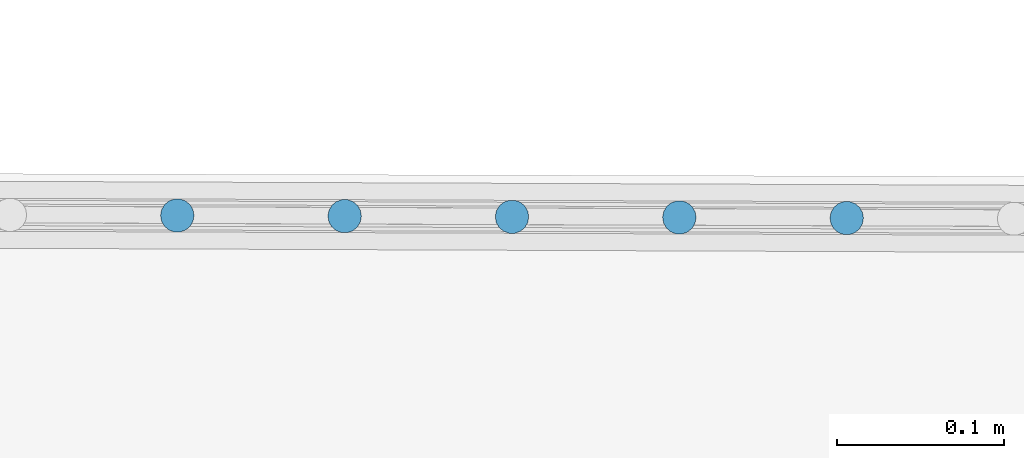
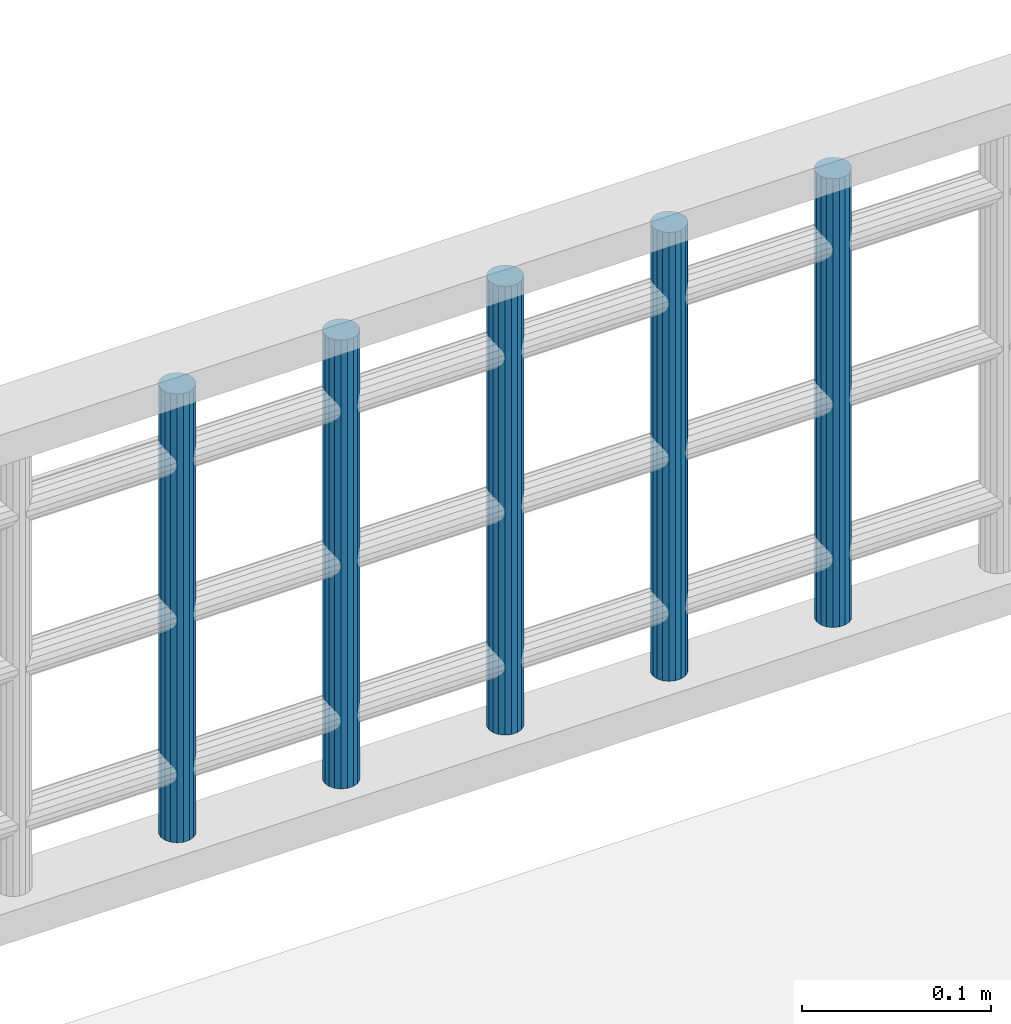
# One storey, part 16 of 39: 5 members, 1 element without a shape of its own.
"""IFC2X3 building model written with IfcOpenShell, lengths in centimetres."""

from ifc_helpers import new_model, entity, si_unit, converted_unit, direction, frame, origin, origin_with_axes, place, context, subcontext, project, spatial, faceted_brep, material, type_object, element, aggregate, save


model = new_model("IFC2X3")

# Units and contexts
model_context = context("Model", 3, precision=0.0001, world=origin(), true_north=direction((0.225632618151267, 0.974212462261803, 0.0)))
body_context = subcontext(model_context, "Body", "Model", "MODEL_VIEW")
ifc_project = project(units=[si_unit("LENGTHUNIT", "METRE", prefix="CENTI"), si_unit("AREAUNIT", "SQUARE_METRE", prefix="CENTI"), si_unit("VOLUMEUNIT", "CUBIC_METRE", prefix="CENTI"), converted_unit("PLANEANGLEUNIT", "DEGREE", entity("IfcRatioMeasure", 0.0174532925), si_unit("PLANEANGLEUNIT", "RADIAN"), dimensions=[0, 0, 0, 0, 0, 0, 0])], contexts=[model_context])

# Site, building, storey
site_placement = place(None, origin_with_axes())
site = spatial("IfcSite", under=ifc_project, at=site_placement, Name="Default Site", CompositionType="ELEMENT")
building_placement = place(site_placement, origin_with_axes())
building = spatial("IfcBuilding", under=site, at=building_placement, Name="Default Building", CompositionType="ELEMENT")
storey_placement = place(building_placement, frame((0.0, 0.0, 1088.91037418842), z_axis=(0.0, 0.0, 1.0), x_axis=(1.0, 0.0, 0.0)))
storey = spatial("IfcBuildingStorey", under=building, at=storey_placement, Name="Mezzanine", CompositionType="ELEMENT", Elevation=1088.91037418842)

# Assembly, members
building_element_proxy_type = type_object("IfcBuildingElementProxyType", Name="Type Object", PredefinedType="NOTDEFINED")
assembly_placement = place(storey_placement, frame((1162.63, -350.05, -63.0000000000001), z_axis=(0.0, 0.0, 1.0), x_axis=(0.999992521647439, -0.00386738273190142, 0.0)))
assembly = element("IfcElementAssembly", 1, at=assembly_placement, inside=storey, type_object=building_element_proxy_type, Name="Panneau 1519648", ObjectType="Precast panel", PredefinedType="USERDEFINED")
ifc_material = material(Name="Blanc trafic")
member_1_placement = place(assembly_placement, frame((64.9396955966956, 0.342020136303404, 31.0000002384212), z_axis=(0.0, 0.0, 0.999999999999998), x_axis=(0.500008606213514, -0.866020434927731, 0.0)))
member_1 = element("IfcMember", 2, at=member_1_placement, material=ifc_material, Name="4294967218", context=body_context, shape_type="Brep", body=[
    faceted_brep([(-2.58681964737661e-12, -2.53130849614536e-12, -2.75890421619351e-12), (-0.347298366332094, -2.50910403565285e-12, -2.75890421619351e-12), (-0.673651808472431, -0.118779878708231, -2.75890421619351e-12), (-0.939696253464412, -0.342011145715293, -2.75890421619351e-12), (-1.11334843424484, -0.64277864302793, -2.75890421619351e-12), (-1.17365993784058, -0.984799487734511, -2.75890421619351e-12), (-1.11335640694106, -1.32682099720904, -2.75890421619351e-12), (-0.939710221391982, -1.6275884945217, -2.75890421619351e-12), (-0.673668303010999, -1.85082944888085, -2.75890421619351e-12), (-0.347317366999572, -1.96961451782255, -2.75890421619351e-12), (-2.19809536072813e-05, -1.96961967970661, -2.75890421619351e-12), (0.32633146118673, -1.85083980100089, -2.75890421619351e-12), (0.592378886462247, -1.62760337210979, -2.75890421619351e-12), (0.766031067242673, -1.32683587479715, -2.75890421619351e-12), (0.826339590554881, -0.984820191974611, -2.75890421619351e-12), (0.766036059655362, -0.642798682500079, -2.75890421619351e-12), (0.592392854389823, -0.342026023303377, -2.75890421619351e-12), (0.326347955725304, -0.11879023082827, -2.75890421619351e-12), (0.326347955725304, -0.11879023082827, -29.0000002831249), (0.592392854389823, -0.342026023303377, -29.0000002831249), (0.766036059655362, -0.642798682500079, -29.0000002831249), (0.826339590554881, -0.984820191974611, -29.0000002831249), (0.766031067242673, -1.32683587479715, -29.0000002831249), (0.592378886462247, -1.62760337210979, -29.0000002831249), (0.32633146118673, -1.85083980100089, -29.0000002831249), (-2.19809536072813e-05, -1.96961967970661, -29.0000002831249), (-0.347317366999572, -1.96961451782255, -29.0000002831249), (-0.673668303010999, -1.85082944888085, -29.0000002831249), (-0.939710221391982, -1.6275884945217, -29.0000002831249), (-1.11335640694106, -1.32682099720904, -29.0000002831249), (-1.17365993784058, -0.984799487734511, -29.0000002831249), (-1.11334843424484, -0.64277864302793, -29.0000002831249), (-0.939696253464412, -0.342011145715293, -29.0000002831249), (-0.673651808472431, -0.118779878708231, -29.0000002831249), (-0.347298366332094, -2.50910403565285e-12, -29.0000002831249), (-2.58681964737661e-12, -2.53130849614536e-12, -29.0000002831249), (0.592389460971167, -0.342030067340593, -2.75890421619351e-12), (0.592389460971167, -0.342030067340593, -29.0000002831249), (0.766039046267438, -0.642796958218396, -2.75890421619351e-12), (0.766039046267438, -0.642796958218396, -29.0000002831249), (0.826340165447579, -0.984820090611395, -2.75890421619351e-12), (0.826340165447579, -0.984820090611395, -29.0000002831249), (0.766029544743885, -1.32683560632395, -2.75890421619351e-12), (0.766029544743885, -1.32683560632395, -29.0000002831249), (0.592378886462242, -1.62760337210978, -2.75890421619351e-12), (0.592378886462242, -1.62760337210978, -29.0000002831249), (0.326331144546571, -1.85083942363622, -2.75890421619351e-12), (0.326331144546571, -1.85083942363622, -29.0000002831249), (-2.21806059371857e-05, -1.96961913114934, -2.75890421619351e-12), (-2.21806059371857e-05, -1.96961913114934, -29.0000002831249), (-0.347317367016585, -1.96961623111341, -2.75890421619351e-12), (-0.347317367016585, -1.96961623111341, -29.0000002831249), (-0.67366810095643, -1.85082889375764, -2.75890421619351e-12), (-0.67366810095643, -1.85082889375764, -29.0000002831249), (-0.939710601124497, -1.62758894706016, -2.75890421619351e-12), (-0.939710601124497, -1.62758894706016, -29.0000002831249), (-1.11335492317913, -1.32682014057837, -2.75890421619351e-12), (-1.11335492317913, -1.32682014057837, -29.0000002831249), (-1.17366051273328, -0.984799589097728, -2.75890421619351e-12), (-1.17366051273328, -0.984799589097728, -29.0000002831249), (-1.11334891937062, -0.642778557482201, -2.75890421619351e-12), (-1.11334891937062, -0.642778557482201, -29.0000002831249), (-0.939696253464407, -0.342011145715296, -2.75890421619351e-12), (-0.939696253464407, -0.342011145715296, -29.0000002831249), (-0.673652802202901, -0.118778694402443, -2.75890421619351e-12), (-0.673652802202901, -0.118778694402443, -29.0000002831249), (-0.347298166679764, -5.48559777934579e-07, -2.75890421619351e-12), (-0.347298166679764, -5.48559777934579e-07, -29.0000002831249), (-3.68311474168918e-11, -3.4486253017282e-06, -2.75890421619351e-12), (-3.68311474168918e-11, -3.4486253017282e-06, -29.0000002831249), (0.326349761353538, -0.118785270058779, -2.75890421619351e-12), (0.326349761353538, -0.118785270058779, -29.0000002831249)], [[[0, 1, 2, 3, 4, 5, 6, 7, 8, 9, 10, 11, 12, 13, 14, 15, 16, 17]], [[18, 19, 20, 21, 22, 23, 24, 25, 26, 27, 28, 29, 30, 31, 32, 33, 34, 35]], [[17, 36, 37, 18]], [[16, 38, 39, 19]], [[15, 40, 41, 20]], [[14, 42, 43, 21]], [[13, 44, 45, 22]], [[12, 46, 47, 23]], [[11, 48, 49, 24]], [[10, 50, 51, 25]], [[9, 52, 53, 26]], [[8, 54, 55, 27]], [[7, 56, 57, 28]], [[6, 58, 59, 29]], [[5, 60, 61, 30]], [[4, 62, 63, 31]], [[3, 64, 65, 32]], [[2, 66, 67, 33]], [[1, 68, 69, 34]], [[0, 70, 71, 35]]]),
])
member_2_placement = place(assembly_placement, frame((74.9396920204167, 0.342020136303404, 31.0000002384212), z_axis=(0.0, 0.0, 0.999999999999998), x_axis=(0.499995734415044, -0.866027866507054, 0.0)))
member_2 = element("IfcMember", 3, at=member_2_placement, material=ifc_material, Name="4294967217", context=body_context, shape_type="Brep", body=[
    faceted_brep([(-2.54796184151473e-12, -2.54241072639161e-12, -2.57016630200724e-12), (-0.347295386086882, -2.48689957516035e-12, -2.57016630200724e-12), (-0.673647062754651, -0.118784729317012, -2.57016630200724e-12), (-0.939691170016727, -0.342025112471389, -2.57016630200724e-12), (-1.11333590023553, -0.642790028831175, -2.57016630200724e-12), (-1.17364232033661, -0.984811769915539, -2.57016630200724e-12), (-1.11333370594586, -1.32683238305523, -2.57016630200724e-12), (-0.939683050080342, -1.62759729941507, -2.57016630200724e-12), (-0.673637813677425, -1.85083429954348, -2.57016630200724e-12), (-0.347285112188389, -1.96961451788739, -2.57016630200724e-12), (1.0273895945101e-05, -1.96961451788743, -2.57016630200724e-12), (0.326361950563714, -1.85082978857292, -2.57016630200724e-12), (0.592406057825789, -1.62758940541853, -2.57016630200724e-12), (0.766050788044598, -1.32682448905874, -2.57016630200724e-12), (0.826357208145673, -0.984802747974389, -2.57016630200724e-12), (0.766048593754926, -0.642782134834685, -2.57016630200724e-12), (0.592397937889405, -0.342017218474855, -2.57016630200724e-12), (0.326352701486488, -0.118780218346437, -2.57016630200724e-12), (0.326352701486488, -0.118780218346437, -29.0000002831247), (0.592397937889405, -0.342017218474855, -29.0000002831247), (0.766048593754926, -0.642782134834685, -29.0000002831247), (0.826357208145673, -0.984802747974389, -29.0000002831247), (0.766050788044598, -1.32682448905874, -29.0000002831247), (0.592406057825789, -1.62758940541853, -29.0000002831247), (0.326361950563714, -1.85082978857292, -29.0000002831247), (1.0273895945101e-05, -1.96961451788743, -29.0000002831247), (-0.347285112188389, -1.96961451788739, -29.0000002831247), (-0.673637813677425, -1.85083429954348, -29.0000002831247), (-0.939683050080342, -1.62759729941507, -29.0000002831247), (-1.11333370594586, -1.32683238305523, -29.0000002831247), (-1.17364232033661, -0.984811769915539, -29.0000002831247), (-1.11333590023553, -0.642790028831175, -29.0000002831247), (-0.939691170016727, -0.342025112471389, -29.0000002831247), (-0.673647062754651, -0.118784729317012, -29.0000002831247), (-0.347295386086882, -2.48689957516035e-12, -29.0000002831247), (-2.54796184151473e-12, -2.54241072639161e-12, -29.0000002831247), (0.592398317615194, -0.342016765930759, -2.57016630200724e-12), (0.592398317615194, -0.342016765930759, -29.0000002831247), (0.766047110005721, -0.642782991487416, -2.57016630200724e-12), (0.766047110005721, -0.642782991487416, -29.0000002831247), (0.826357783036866, -0.984802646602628, -2.57016630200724e-12), (0.826357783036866, -0.984802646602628, -29.0000002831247), (0.766051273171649, -1.32682457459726, -2.57016630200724e-12), (0.766051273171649, -1.32682457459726, -29.0000002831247), (0.592406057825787, -1.62758940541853, -2.57016630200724e-12), (0.592406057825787, -1.62758940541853, -29.0000002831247), (0.326361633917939, -1.85082941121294, -2.57016630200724e-12), (0.326361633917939, -1.85082941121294, -29.0000002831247), (1.00742354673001e-05, -1.96961396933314, -2.57016630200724e-12), (1.00742354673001e-05, -1.96961396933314, -29.0000002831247), (-0.347285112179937, -1.96961623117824, -2.57016630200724e-12), (-0.347285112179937, -1.96961623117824, -29.0000002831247), (-0.673637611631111, -1.85083374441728, -2.57016630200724e-12), (-0.673637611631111, -1.85083374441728, -29.0000002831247), (-0.939683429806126, -1.62759775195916, -2.57016630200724e-12), (-0.939683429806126, -1.62759775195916, -29.0000002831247), (-1.11333222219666, -1.3268315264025, -2.57016630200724e-12), (-1.11333222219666, -1.3268315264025, -29.0000002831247), (-1.1736428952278, -0.9848118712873, -2.57016630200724e-12), (-1.1736428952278, -0.9848118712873, -29.0000002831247), (-1.11333638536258, -0.642789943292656, -2.57016630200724e-12), (-1.11333638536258, -0.642789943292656, -29.0000002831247), (-0.939691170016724, -0.342025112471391, -2.57016630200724e-12), (-0.939691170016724, -0.342025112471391, -29.0000002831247), (-0.673646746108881, -0.11878510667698, -2.57016630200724e-12), (-0.673646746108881, -0.11878510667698, -29.0000002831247), (-0.347295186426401, -5.48556783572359e-07, -2.57016630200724e-12), (-0.347295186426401, -5.48556783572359e-07, -29.0000002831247), (-1.10000335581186e-11, 1.71328832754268e-06, -2.57016630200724e-12), (-1.10000335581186e-11, 1.71328832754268e-06, -29.0000002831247), (0.32635249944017, -0.118780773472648, -2.57016630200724e-12), (0.32635249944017, -0.118780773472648, -29.0000002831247)], [[[0, 1, 2, 3, 4, 5, 6, 7, 8, 9, 10, 11, 12, 13, 14, 15, 16, 17]], [[18, 19, 20, 21, 22, 23, 24, 25, 26, 27, 28, 29, 30, 31, 32, 33, 34, 35]], [[17, 36, 37, 18]], [[16, 38, 39, 19]], [[15, 40, 41, 20]], [[14, 42, 43, 21]], [[13, 44, 45, 22]], [[12, 46, 47, 23]], [[11, 48, 49, 24]], [[10, 50, 51, 25]], [[9, 52, 53, 26]], [[8, 54, 55, 27]], [[7, 56, 57, 28]], [[6, 58, 59, 29]], [[5, 60, 61, 30]], [[4, 62, 63, 31]], [[3, 64, 65, 32]], [[2, 66, 67, 33]], [[1, 68, 69, 34]], [[0, 70, 71, 35]]]),
])
member_3_placement = place(assembly_placement, frame((84.9396944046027, 0.342020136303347, 31.0000002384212), z_axis=(0.0, 0.0, 0.999999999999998), x_axis=(0.500008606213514, -0.866020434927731, 0.0)))
member_3 = element("IfcMember", 4, at=member_3_placement, material=ifc_material, Name="4294967216", context=body_context, shape_type="Brep", body=[
    faceted_brep([(-2.44804176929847e-12, -2.43138842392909e-12, -2.75890421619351e-12), (-0.347298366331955, -2.39808173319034e-12, -2.75890421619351e-12), (-0.673648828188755, -0.118774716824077, -2.75890421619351e-12), (-0.939696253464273, -0.342011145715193, -2.75890421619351e-12), (-1.1133484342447, -0.642778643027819, -2.75890421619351e-12), (-1.17365993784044, -0.984799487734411, -2.75890421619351e-12), (-1.11335342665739, -1.3268158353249, -2.75890421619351e-12), (-0.939710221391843, -1.62758849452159, -2.75890421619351e-12), (-0.67366830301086, -1.85082944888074, -2.75890421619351e-12), (-0.347317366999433, -1.96961451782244, -2.75890421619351e-12), (-1.9000669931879e-05, -1.96961451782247, -2.75890421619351e-12), (0.326331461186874, -1.85083980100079, -2.75890421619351e-12), (0.592378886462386, -1.62760337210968, -2.75890421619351e-12), (0.766031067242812, -1.32683587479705, -2.75890421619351e-12), (0.826342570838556, -0.984815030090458, -2.75890421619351e-12), (0.7660360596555, -0.642798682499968, -2.75890421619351e-12), (0.592392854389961, -0.342026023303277, -2.75890421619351e-12), (0.326350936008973, -0.118785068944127, -2.75890421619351e-12), (0.326350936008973, -0.118785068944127, -29.0000002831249), (0.592392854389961, -0.342026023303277, -29.0000002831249), (0.7660360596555, -0.642798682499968, -29.0000002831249), (0.826342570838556, -0.984815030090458, -29.0000002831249), (0.766031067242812, -1.32683587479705, -29.0000002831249), (0.592378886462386, -1.62760337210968, -29.0000002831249), (0.326331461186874, -1.85083980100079, -29.0000002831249), (-1.9000669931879e-05, -1.96961451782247, -29.0000002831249), (-0.347317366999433, -1.96961451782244, -29.0000002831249), (-0.67366830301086, -1.85082944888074, -29.0000002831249), (-0.939710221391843, -1.62758849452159, -29.0000002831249), (-1.11335342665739, -1.3268158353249, -29.0000002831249), (-1.17365993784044, -0.984799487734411, -29.0000002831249), (-1.1133484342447, -0.642778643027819, -29.0000002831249), (-0.939696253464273, -0.342011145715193, -29.0000002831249), (-0.673648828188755, -0.118774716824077, -29.0000002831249), (-0.347298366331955, -2.39808173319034e-12, -29.0000002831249), (-2.44804176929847e-12, -2.43138842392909e-12, -29.0000002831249), (0.592393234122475, -0.342025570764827, -2.75890421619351e-12), (0.592393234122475, -0.342025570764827, -29.0000002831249), (0.766039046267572, -0.642796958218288, -2.75890421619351e-12), (0.766039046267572, -0.642796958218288, -29.0000002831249), (0.826339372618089, -0.984815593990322, -2.75890421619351e-12), (0.826339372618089, -0.984815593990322, -29.0000002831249), (0.766031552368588, -1.32683596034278, -2.75890421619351e-12), (0.766031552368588, -1.32683596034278, -29.0000002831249), (0.326331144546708, -1.85083942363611, -2.75890421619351e-12), (0.326331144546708, -1.85083942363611, -29.0000002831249), (-1.78899719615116e-05, -1.96961756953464, -2.75890421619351e-12), (-1.78899719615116e-05, -1.96961756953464, -29.0000002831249), (-0.347317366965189, -1.96961106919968, -2.75890421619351e-12), (-0.347317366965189, -1.96961106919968, -29.0000002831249), (-0.673668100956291, -1.85082889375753, -2.75890421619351e-12), (-0.673668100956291, -1.85082889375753, -29.0000002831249), (-0.939710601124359, -1.62758894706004, -2.75890421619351e-12), (-0.939710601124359, -1.62758894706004, -29.0000002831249), (-1.11335641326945, -1.32681755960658, -2.75890421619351e-12), (-1.11335641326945, -1.32681755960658, -29.0000002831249), (-1.17365673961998, -0.984798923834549, -2.75890421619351e-12), (-1.17365673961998, -0.984798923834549, -29.0000002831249), (-1.11334891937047, -0.642778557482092, -2.75890421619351e-12), (-1.11334891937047, -0.642778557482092, -29.0000002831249), (-0.673648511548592, -0.118775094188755, -2.75890421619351e-12), (-0.673648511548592, -0.118775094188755, -29.0000002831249), (-0.347299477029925, 3.05170977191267e-06, -2.75890421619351e-12), (-0.347299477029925, 3.05170977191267e-06, -29.0000002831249), (-3.66923694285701e-11, -3.4486251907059e-06, -2.75890421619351e-12), (-3.66923694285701e-11, -3.4486251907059e-06, -29.0000002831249), (0.326350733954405, -0.118785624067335, -2.75890421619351e-12), (0.326350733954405, -0.118785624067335, -29.0000002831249)], [[[0, 1, 2, 3, 4, 5, 6, 7, 8, 9, 10, 11, 12, 13, 14, 15, 16, 17]], [[18, 19, 20, 21, 22, 23, 24, 25, 26, 27, 28, 29, 30, 31, 32, 33, 34, 35]], [[17, 36, 37, 18]], [[16, 38, 39, 19]], [[15, 40, 41, 20]], [[14, 42, 43, 21]], [[13, 12, 23, 22]], [[12, 44, 45, 23]], [[11, 46, 47, 24]], [[10, 48, 49, 25]], [[9, 50, 51, 26]], [[8, 52, 53, 27]], [[7, 54, 55, 28]], [[6, 56, 57, 29]], [[5, 58, 59, 30]], [[4, 3, 32, 31]], [[3, 60, 61, 32]], [[2, 62, 63, 33]], [[1, 64, 65, 34]], [[0, 66, 67, 35]]]),
])
member_4_placement = place(assembly_placement, frame((94.939690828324, 0.342020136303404, 31.0000002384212), z_axis=(0.0, 0.0, 0.999999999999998), x_axis=(0.499995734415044, -0.866027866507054, 0.0)))
member_4 = element("IfcMember", 5, at=member_4_placement, material=ifc_material, Name="4294967215", context=body_context, shape_type="Brep", body=[
    faceted_brep([(-2.49245069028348e-12, -2.64233079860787e-12, -2.57016630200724e-12), (-0.347295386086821, -2.58681964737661e-12, -2.57016630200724e-12), (-0.673647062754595, -0.118784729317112, -2.57016630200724e-12), (-0.939691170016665, -0.3420251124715, -2.57016630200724e-12), (-1.11333590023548, -0.642790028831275, -2.57016630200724e-12), (-1.17364232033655, -0.984811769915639, -2.57016630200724e-12), (-1.1133337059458, -1.32683238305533, -2.57016630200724e-12), (-0.939683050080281, -1.62759729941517, -2.57016630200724e-12), (-0.673637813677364, -1.85083429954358, -2.57016630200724e-12), (-0.347285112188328, -1.96961451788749, -2.57016630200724e-12), (1.02738960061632e-05, -1.96961451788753, -2.57016630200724e-12), (0.326361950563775, -1.85082978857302, -2.57016630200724e-12), (0.592406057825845, -1.62758940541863, -2.57016630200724e-12), (0.766050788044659, -1.32682448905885, -2.57016630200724e-12), (0.826357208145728, -0.984802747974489, -2.57016630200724e-12), (0.766048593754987, -0.642782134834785, -2.57016630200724e-12), (0.592397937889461, -0.342017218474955, -2.57016630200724e-12), (0.326352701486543, -0.118780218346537, -2.57016630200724e-12), (0.326352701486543, -0.118780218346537, -29.0000002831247), (0.592397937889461, -0.342017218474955, -29.0000002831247), (0.766048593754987, -0.642782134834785, -29.0000002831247), (0.826357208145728, -0.984802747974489, -29.0000002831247), (0.766050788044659, -1.32682448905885, -29.0000002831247), (0.592406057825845, -1.62758940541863, -29.0000002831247), (0.326361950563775, -1.85082978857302, -29.0000002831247), (1.02738960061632e-05, -1.96961451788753, -29.0000002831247), (-0.347285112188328, -1.96961451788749, -29.0000002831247), (-0.673637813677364, -1.85083429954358, -29.0000002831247), (-0.939683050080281, -1.62759729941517, -29.0000002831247), (-1.1133337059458, -1.32683238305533, -29.0000002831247), (-1.17364232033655, -0.984811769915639, -29.0000002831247), (-1.11333590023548, -0.642790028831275, -29.0000002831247), (-0.939691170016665, -0.3420251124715, -29.0000002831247), (-0.673647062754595, -0.118784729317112, -29.0000002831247), (-0.347295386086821, -2.58681964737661e-12, -29.0000002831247), (-2.49245069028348e-12, -2.64233079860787e-12, -29.0000002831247), (0.59239831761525, -0.342016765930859, -2.57016630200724e-12), (0.59239831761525, -0.342016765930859, -29.0000002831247), (0.766047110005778, -0.642782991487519, -2.57016630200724e-12), (0.766047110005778, -0.642782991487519, -29.0000002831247), (0.826357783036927, -0.984802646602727, -2.57016630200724e-12), (0.826357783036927, -0.984802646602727, -29.0000002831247), (0.766051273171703, -1.32682457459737, -2.57016630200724e-12), (0.766051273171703, -1.32682457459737, -29.0000002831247), (0.592406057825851, -1.62758940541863, -2.57016630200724e-12), (0.592406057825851, -1.62758940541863, -29.0000002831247), (0.326361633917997, -1.85082941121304, -2.57016630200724e-12), (0.326361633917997, -1.85082941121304, -29.0000002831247), (1.00742355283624e-05, -1.96961396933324, -2.57016630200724e-12), (1.00742355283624e-05, -1.96961396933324, -29.0000002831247), (-0.347285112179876, -1.96961623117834, -2.57016630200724e-12), (-0.347285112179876, -1.96961623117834, -29.0000002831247), (-0.67363761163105, -1.85083374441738, -2.57016630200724e-12), (-0.67363761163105, -1.85083374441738, -29.0000002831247), (-0.939683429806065, -1.62759775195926, -2.57016630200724e-12), (-0.939683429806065, -1.62759775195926, -29.0000002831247), (-1.1133322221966, -1.3268315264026, -2.57016630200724e-12), (-1.1133322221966, -1.3268315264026, -29.0000002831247), (-1.17364289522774, -0.9848118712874, -2.57016630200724e-12), (-1.17364289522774, -0.9848118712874, -29.0000002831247), (-1.11333638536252, -0.642789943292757, -2.57016630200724e-12), (-1.11333638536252, -0.642789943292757, -29.0000002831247), (-0.939691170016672, -0.342025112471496, -2.57016630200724e-12), (-0.939691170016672, -0.342025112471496, -29.0000002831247), (-0.673646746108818, -0.118785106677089, -2.57016630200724e-12), (-0.673646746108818, -0.118785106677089, -29.0000002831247), (-0.34729518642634, -5.48556881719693e-07, -2.57016630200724e-12), (-0.34729518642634, -5.48556881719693e-07, -29.0000002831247), (-1.09445224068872e-11, 1.71328822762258e-06, -2.57016630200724e-12), (-1.09445224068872e-11, 1.71328822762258e-06, -29.0000002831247), (0.326352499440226, -0.118780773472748, -2.57016630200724e-12), (0.326352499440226, -0.118780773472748, -29.0000002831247)], [[[0, 1, 2, 3, 4, 5, 6, 7, 8, 9, 10, 11, 12, 13, 14, 15, 16, 17]], [[18, 19, 20, 21, 22, 23, 24, 25, 26, 27, 28, 29, 30, 31, 32, 33, 34, 35]], [[17, 36, 37, 18]], [[16, 38, 39, 19]], [[15, 40, 41, 20]], [[14, 42, 43, 21]], [[13, 44, 45, 22]], [[12, 46, 47, 23]], [[11, 48, 49, 24]], [[10, 50, 51, 25]], [[9, 52, 53, 26]], [[8, 54, 55, 27]], [[7, 56, 57, 28]], [[6, 58, 59, 29]], [[5, 60, 61, 30]], [[4, 62, 63, 31]], [[3, 64, 65, 32]], [[2, 66, 67, 33]], [[1, 68, 69, 34]], [[0, 70, 71, 35]]]),
])
member_5_placement = place(assembly_placement, frame((104.939687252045, 0.342020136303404, 31.0000002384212), z_axis=(0.0, 0.0, 0.999999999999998), x_axis=(0.499982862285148, -0.866035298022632, 0.0)))
member_5 = element("IfcMember", 6, at=member_5_placement, material=ifc_material, Name="4294967214", context=body_context, shape_type="Brep", body=[
    faceted_brep([(-2.58681964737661e-12, -2.74225087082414e-12, -2.75890421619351e-12), (-0.347292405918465, -2.68673971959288e-12, -2.75890421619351e-12), (-0.673645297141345, -0.118794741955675, -2.75890421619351e-12), (-0.939683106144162, -0.342033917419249, -2.75890421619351e-12), (-1.11332336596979, -0.642801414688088, -2.75890421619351e-12), (-1.17362768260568, -0.984829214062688, -2.75890421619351e-12), (-1.11331100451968, -1.32684376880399, -2.75890421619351e-12), (-0.939658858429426, -1.62761126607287, -2.75890421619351e-12), (-0.673610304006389, -1.85084431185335, -2.75890421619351e-12), (-0.347255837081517, -1.96961967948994, -2.75890421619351e-12), (4.25290945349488e-05, -1.96960935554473, -2.75890421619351e-12), (0.326389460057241, -1.85082493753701, -2.75890421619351e-12), (0.592433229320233, -1.62757543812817, -2.75890421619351e-12), (0.766073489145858, -1.32680794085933, -2.75890421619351e-12), (0.826371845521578, -0.984790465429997, -2.75890421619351e-12), (0.76606112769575, -0.642765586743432, -2.75890421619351e-12), (0.592403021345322, -0.342008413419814, -2.75890421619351e-12), (0.326354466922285, -0.118775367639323, -2.75890421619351e-12), (0.326354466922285, -0.118775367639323, -29.0000002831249), (0.592403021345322, -0.342008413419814, -29.0000002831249), (0.76606112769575, -0.642765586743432, -29.0000002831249), (0.826371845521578, -0.984790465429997, -29.0000002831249), (0.766073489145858, -1.32680794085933, -29.0000002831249), (0.592433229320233, -1.62757543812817, -29.0000002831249), (0.326389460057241, -1.85082493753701, -29.0000002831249), (4.25290945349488e-05, -1.96960935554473, -29.0000002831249), (-0.347255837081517, -1.96961967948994, -29.0000002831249), (-0.673610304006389, -1.85084431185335, -29.0000002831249), (-0.939658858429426, -1.62761126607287, -29.0000002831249), (-1.11331100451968, -1.32684376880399, -29.0000002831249), (-1.17362768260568, -0.984829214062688, -29.0000002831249), (-1.11332336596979, -0.642801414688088, -29.0000002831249), (-0.939683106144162, -0.342033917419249, -29.0000002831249), (-0.673645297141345, -0.118794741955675, -29.0000002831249), (-0.347292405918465, -2.68673971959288e-12, -29.0000002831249), (-2.58681964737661e-12, -2.74225087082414e-12, -29.0000002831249), (0.592403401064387, -0.342007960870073, -2.75890421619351e-12), (0.592403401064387, -0.342007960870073, -29.0000002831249), (0.766055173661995, -0.642769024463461, -2.75890421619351e-12), (0.766055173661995, -0.642769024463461, -29.0000002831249), (0.826376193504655, -0.984789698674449, -2.75890421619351e-12), (0.826376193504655, -0.984789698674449, -29.0000002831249), (0.766071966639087, -1.32680767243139, -2.75890421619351e-12), (0.766071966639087, -1.32680767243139, -29.0000002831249), (0.592433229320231, -1.62757543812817, -2.75890421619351e-12), (0.592433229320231, -1.62757543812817, -29.0000002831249), (0.326387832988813, -1.85082299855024, -2.75890421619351e-12), (0.326387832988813, -1.85082299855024, -29.0000002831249), (4.36398832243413e-05, -1.96961240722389, -2.75890421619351e-12), (4.36398832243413e-05, -1.96961240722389, -29.0000002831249), (-0.347255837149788, -1.96961623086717, -2.75890421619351e-12), (-0.347255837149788, -1.96961623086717, -29.0000002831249), (-0.673610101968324, -1.85084375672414, -2.75890421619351e-12), (-0.673610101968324, -1.85084375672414, -29.0000002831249), (-0.939659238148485, -1.62761171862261, -2.75890421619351e-12), (-0.939659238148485, -1.62761171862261, -29.0000002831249), (-1.11331399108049, -1.32684549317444, -2.75890421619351e-12), (-1.11331399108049, -1.32684549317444, -29.0000002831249), (-1.17362448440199, -0.984828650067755, -2.75890421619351e-12), (-1.17362448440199, -0.984828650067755, -29.0000002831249), (-1.11332585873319, -0.642800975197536, -2.75890421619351e-12), (-1.11332585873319, -0.642800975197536, -29.0000002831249), (-0.93968310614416, -0.34203391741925, -2.75890421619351e-12), (-0.93968310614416, -0.34203391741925, -29.0000002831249), (-0.673646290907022, -0.118793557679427, -2.75890421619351e-12), (-0.673646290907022, -0.118793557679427, -29.0000002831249), (-0.347290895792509, -4.1487844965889e-06, -2.75890421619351e-12), (-0.347290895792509, -4.1487844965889e-06, -29.0000002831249), (-1.3869240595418e-10, 6.87520175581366e-06, -2.75890421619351e-12), (-1.3869240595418e-10, 6.87520175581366e-06, -29.0000002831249), (0.326354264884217, -0.118775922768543, -2.75890421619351e-12), (0.326354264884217, -0.118775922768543, -29.0000002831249)], [[[0, 1, 2, 3, 4, 5, 6, 7, 8, 9, 10, 11, 12, 13, 14, 15, 16, 17]], [[18, 19, 20, 21, 22, 23, 24, 25, 26, 27, 28, 29, 30, 31, 32, 33, 34, 35]], [[17, 36, 37, 18]], [[16, 38, 39, 19]], [[15, 40, 41, 20]], [[14, 42, 43, 21]], [[13, 44, 45, 22]], [[12, 46, 47, 23]], [[11, 48, 49, 24]], [[10, 50, 51, 25]], [[9, 52, 53, 26]], [[8, 54, 55, 27]], [[7, 56, 57, 28]], [[6, 58, 59, 29]], [[5, 60, 61, 30]], [[4, 62, 63, 31]], [[3, 64, 65, 32]], [[2, 66, 67, 33]], [[1, 68, 69, 34]], [[0, 70, 71, 35]]]),
])
aggregate(assembly, [member_1, member_2, member_3, member_4, member_5])

save(model, "model.ifc")
